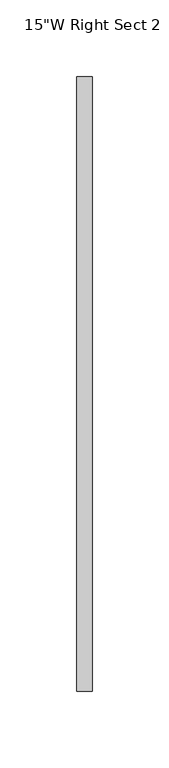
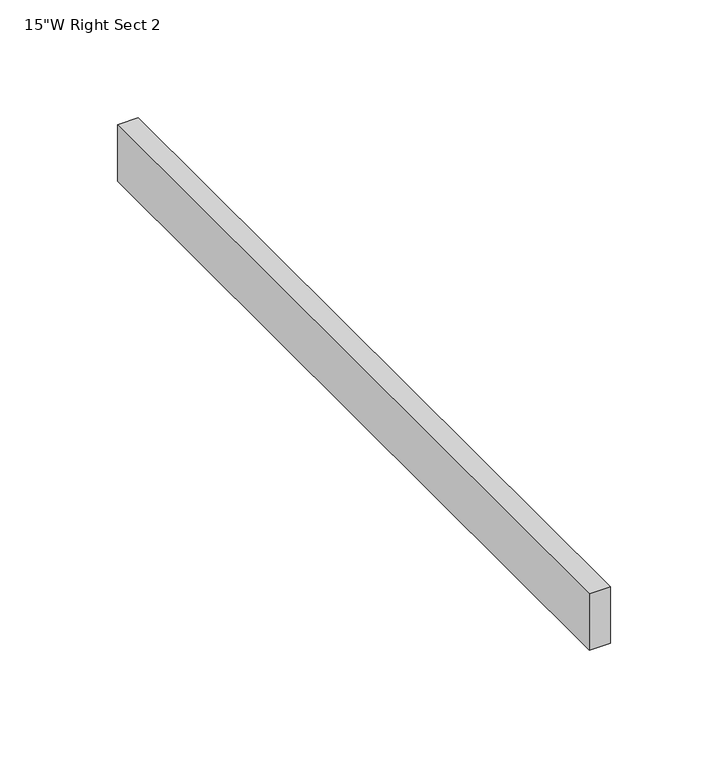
"""IFC4 building model written with IfcOpenShell, lengths in millimetres: furniture geometry."""

from ifc_helpers import new_model, si_unit, frame, origin, place, context, project, spatial, polyline, outline, extrude, source, transform, mapped, element, save


def furniture_5e9628dd(model_context):
    return source(origin(), model_context, "Body", "SweptSolid", [
        extrude(outline(polyline([(5.1854483, 200.787), (5.1854483, -200.787), (-5.0507517, -200.787), (-5.0507517, 200.787), (5.1854483, 200.787)])), frame((0.0, 0.0, 450.8563846), z_axis=(0.0, 0.0, 1.0), x_axis=(1.0, 0.0, 0.0)), (0.0, 0.0, 1.0), 29.4386),
    ])


if __name__ == "__main__":
    model = new_model("IFC4")
    model_context = context("Model", 3, world=origin())
    ifc_project = project(units=[si_unit("LENGTHUNIT", "METRE", prefix="MILLI")], contexts=[model_context])
    site = spatial("IfcSite", under=ifc_project)
    building = spatial("IfcBuilding", under=site)
    placement = place(None, origin())
    furniture_shape = furniture_5e9628dd(model_context)
    element("IfcFurniture", 1, ObjectType="HermanMiller_Carts_CT782_AccessoryRailSide : 15\"W Right Sect 2", at=placement, inside=building, context=model_context, shape_type="MappedRepresentation", body=[
        mapped(furniture_shape, transform((0.0, 0.0, 0.0), x_axis=(1.0, 0.0, 0.0), y_axis=(0.0, 1.0, 0.0), z_axis=(0.0, 0.0, 1.0))),
    ])
    save(model, "model.ifc")
